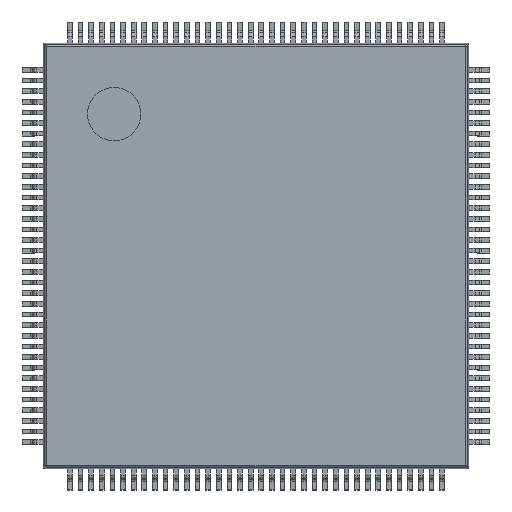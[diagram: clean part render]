
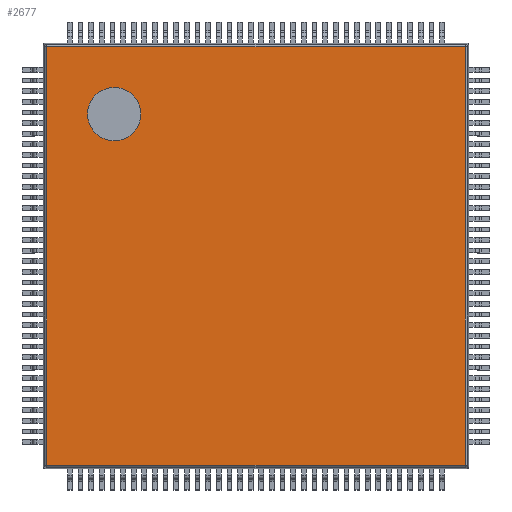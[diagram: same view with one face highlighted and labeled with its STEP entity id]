
A CAD part, top view. The second image highlights one B-rep face of the part: STEP entity #2677.
In plain terms, the highlighted planar face has unit normal (0, 0, 1).
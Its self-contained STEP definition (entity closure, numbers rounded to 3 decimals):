
#2501 = VERTEX_POINT('',#2502);
#2502 = CARTESIAN_POINT('',(0.166,0.166,1.6));
#2509 = EDGE_CURVE('',#2501,#2510,#2512,.T.);
#2510 = VERTEX_POINT('',#2511);
#2511 = CARTESIAN_POINT('',(0.166,19.834,1.6));
#2512 = LINE('',#2513,#2514);
#2513 = CARTESIAN_POINT('',(0.166,0.076,1.6));
#2514 = VECTOR('',#2515,1.);
#2515 = DIRECTION('',(0.,1.,0.));
#2557 = EDGE_CURVE('',#2501,#2558,#2560,.T.);
#2558 = VERTEX_POINT('',#2559);
#2559 = CARTESIAN_POINT('',(19.834,0.166,1.6));
#2560 = LINE('',#2561,#2562);
#2561 = CARTESIAN_POINT('',(0.076,0.166,1.6));
#2562 = VECTOR('',#2563,1.);
#2563 = DIRECTION('',(1.,0.,0.));
#2606 = EDGE_CURVE('',#2510,#2607,#2609,.T.);
#2607 = VERTEX_POINT('',#2608);
#2608 = CARTESIAN_POINT('',(19.834,19.834,1.6));
#2609 = LINE('',#2610,#2611);
#2610 = CARTESIAN_POINT('',(0.076,19.834,1.6));
#2611 = VECTOR('',#2612,1.);
#2612 = DIRECTION('',(1.,0.,0.));
#2638 = EDGE_CURVE('',#2558,#2607,#2639,.T.);
#2639 = LINE('',#2640,#2641);
#2640 = CARTESIAN_POINT('',(19.834,0.076,1.6));
#2641 = VECTOR('',#2642,1.);
#2642 = DIRECTION('',(0.,1.,0.));
#2677 = ADVANCED_FACE('',(#2678,#2684),#2695,.T.);
#2678 = FACE_BOUND('',#2679,.T.);
#2679 = EDGE_LOOP('',(#2680,#2681,#2682,#2683));
#2680 = ORIENTED_EDGE('',*,*,#2509,.F.);
#2681 = ORIENTED_EDGE('',*,*,#2557,.T.);
#2682 = ORIENTED_EDGE('',*,*,#2638,.T.);
#2683 = ORIENTED_EDGE('',*,*,#2606,.F.);
#2684 = FACE_BOUND('',#2685,.T.);
#2685 = EDGE_LOOP('',(#2686));
#2686 = ORIENTED_EDGE('',*,*,#2687,.F.);
#2687 = EDGE_CURVE('',#2688,#2688,#2690,.T.);
#2688 = VERTEX_POINT('',#2689);
#2689 = CARTESIAN_POINT('',(4.583,16.667,1.6));
#2690 = CIRCLE('',#2691,1.25);
#2691 = AXIS2_PLACEMENT_3D('',#2692,#2693,#2694);
#2692 = CARTESIAN_POINT('',(3.333,16.667,1.6));
#2693 = DIRECTION('',(0.,0.,1.));
#2694 = DIRECTION('',(1.,0.,0.));
#2695 = PLANE('',#2696);
#2696 = AXIS2_PLACEMENT_3D('',#2697,#2698,#2699);
#2697 = CARTESIAN_POINT('',(0.,0.,1.6));
#2698 = DIRECTION('',(0.,0.,1.));
#2699 = DIRECTION('',(1.,0.,0.));
